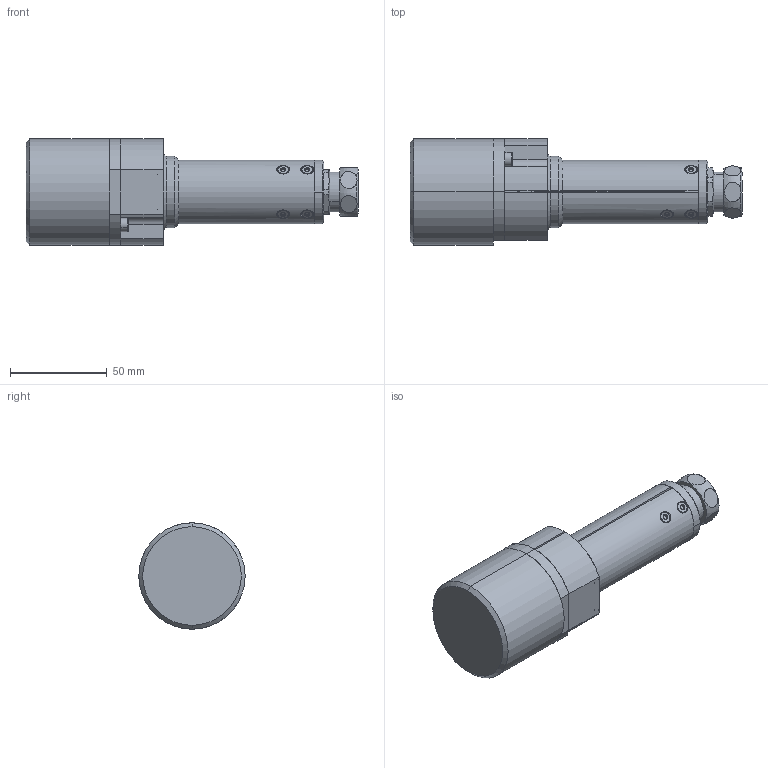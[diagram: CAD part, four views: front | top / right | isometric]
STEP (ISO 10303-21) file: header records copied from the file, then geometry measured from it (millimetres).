
FILE_DESCRIPTION (( 'STEP AP203' ), '1' );
FILE_NAME ('00.234.04-010.STEP', '2010-12-06T07:32:15', ( 'ladmin' ), ( '' ), 'SwSTEP 2.0', 'SolidWorks 2010', '' );
FILE_SCHEMA (( 'CONFIG_CONTROL_DESIGN' ));
Products named in the file (29): 00.234.04-010; 00.234.04-030_01; 00.234.04-040_01; 00.234.04-050_01; 00.234.04-060_01; 00.234.04-070_01; 00.234.04-080_01; 00.234.04-130_01; 00.234.04-090_01; 00.234.04-100_01; 00.234.04-140_01; D_1924_01; 00.234.04-110_01; 00.234.04-900_01; 00.234.04-500_01; 00.234.04-510_01; 00.234.04-910_01; 00.234.04-520_01; 00.234.04-530_01; D_2548_01; 6kt. Schraube M3x8_01; Zyl-Schr I-6kt BN 611_M 3 x 25; Zyl-Schr I-6kt BN 610_M 2,5 x 8; Senk-Schr I-6rd BN 3803_M 3 x 6; Gew Stift I-6kt Kegelk BN 617_M 2,5 x 4; Zyl-Schr I-6kt BN 610_M 4 x 14; Zyl-Schr I-6kt BN 611_M 3 x 30; Scheibe BN 1074_M 3; 6-kt Mu 0,8d BN 628_M 3
Assembly tree (77 placements, depth 3):
  00.234.04-010
    6kt. Schraube M3x8_01  x4
    Senk-Schr I-6rd BN 3803_M 3 x 6  x6
    Zyl-Schr I-6kt BN 611_M 3 x 30  x4
    00.234.04-100_01  x2
    00.234.04-110_01  x2
    Gew Stift I-6kt Kegelk BN 617_M 2,5 x 4  x8
    6-kt Mu 0,8d BN 628_M 3  x8
    00.234.04-040_01
    00.234.04-130_01  x2
    D_2548_01
    00.234.04-030_01
    00.234.04-910_01  x2
      00.234.04-520_01
      00.234.04-530_01
    Zyl-Schr I-6kt BN 611_M 3 x 25  x8
    00.234.04-090_01  x2
    00.234.04-050_01
    Scheibe BN 1074_M 3  x8
    00.234.04-060_01
    00.234.04-900_01  x2
      00.234.04-500_01
      00.234.04-510_01
    00.234.04-140_01  x2
    00.234.04-070_01
    00.234.04-080_01
    Zyl-Schr I-6kt BN 610_M 2,5 x 8  x2
    D_1924_01  x2
    Zyl-Schr I-6kt BN 610_M 4 x 14  x2
Bounding box: 171.75 x 55 x 55 mm (x, y, z)
Volume: 156958.3 mm3; surface area: 95440.3 mm2
Topology: 78 solids, 78 shells, 2501 faces, 6154 edges, 3874 vertices
Faces by surface type: plane 1092, cylinder 884, cone 415, torus 78, sphere 32
Entity records: 41987 total; most frequent: CARTESIAN_POINT 10333, ORIENTED_EDGE 5706, DIRECTION 5630, EDGE_CURVE 2853, AXIS2_PLACEMENT_3D 2238, VERTEX_POINT 1841, EDGE_LOOP 1328, VECTOR 1154
